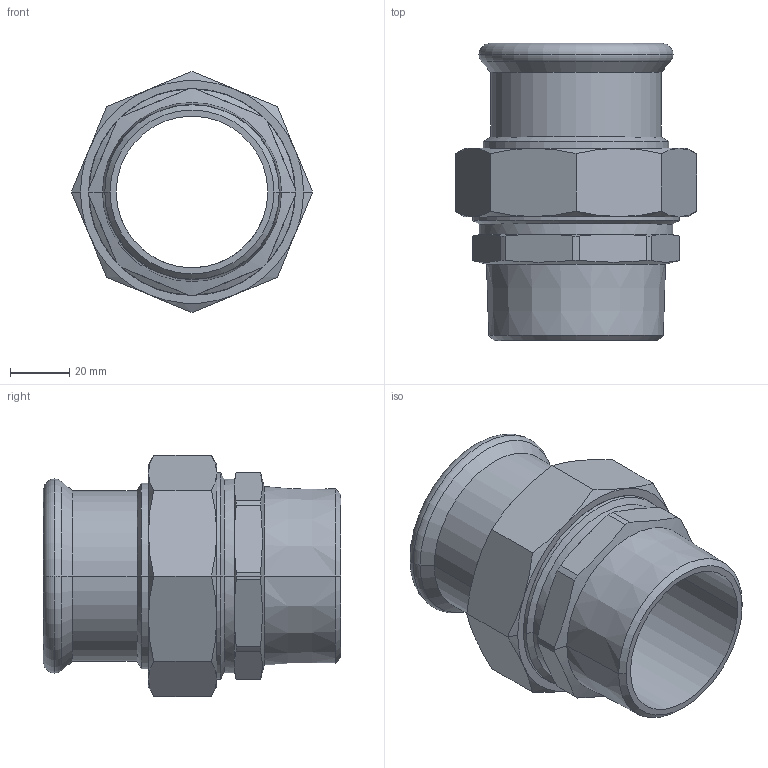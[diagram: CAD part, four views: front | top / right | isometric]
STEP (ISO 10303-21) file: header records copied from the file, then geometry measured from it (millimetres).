
FILE_DESCRIPTION(('CoCreate Modeling STEP Export'),'2;1');
FILE_NAME('C1435 54xR2.stp','2014-11-12T16:33:39',(''),(''),'CoCreate Modeling STEP processor for AP214 (Solid Model)','CoCreate Modeling 17.00A 17-Jun-2010 (C) Parametric Technology GmbH','');
FILE_SCHEMA(('AUTOMOTIVE_DESIGN { 1 0 10303 214 1 1 1 1 }'));
Length unit declared in the file: millimetre
Products named in the file (2): C1435_54xR2
Assembly tree (1 placements, depth 2):
  C1435_54xR2
    C1435_54xR2
Bounding box: 81.18 x 100 x 81.18 mm (x, y, z)
Volume: 107103.9 mm3; surface area: 48598.9 mm2
Topology: 1 solids, 1 shells, 125 faces, 275 edges, 157 vertices
Faces by surface type: cone 54, cylinder 32, plane 31, torus 8
Entity records: 4760 total; most frequent: CARTESIAN_POINT 2515, ORIENTED_EDGE 550, DIRECTION 315, EDGE_CURVE 275, VERTEX_POINT 157, EDGE_LOOP 132, FACE_OUTER_BOUND 125, ADVANCED_FACE 125
